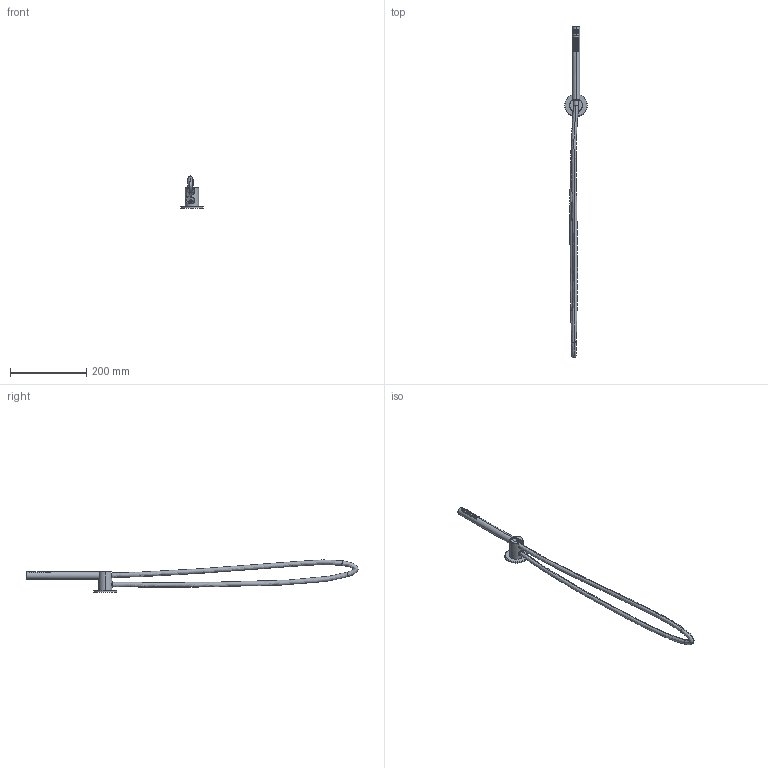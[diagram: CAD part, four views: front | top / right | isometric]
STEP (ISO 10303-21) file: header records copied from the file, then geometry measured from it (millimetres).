
FILE_DESCRIPTION (( 'STEP AP203' ), '1' );
FILE_NAME ('AZ 95.STEP', '2019-02-20T17:03:11', ( '' ), ( '' ), 'SwSTEP 2.0', 'SolidWorks 2019', '' );
FILE_SCHEMA (( 'CONFIG_CONTROL_DESIGN' ));
Length unit declared in the file: millimetre
Products named in the file (1): AZ 95
Bounding box: 60 x 870.84 x 84.39 mm (x, y, z)
Volume: 261338 mm3; surface area: 73963.5 mm2
Topology: 1 solids, 1 shells, 264 faces, 627 edges, 414 vertices
Faces by surface type: cylinder 203, plane 46, cone 9, bspline 6
Entity records: 11681 total; most frequent: CARTESIAN_POINT 6022, ORIENTED_EDGE 1254, DIRECTION 933, EDGE_CURVE 627, VERTEX_POINT 414, AXIS2_PLACEMENT_3D 362, EDGE_LOOP 317, B_SPLINE_CURVE_WITH_KNOTS 311
